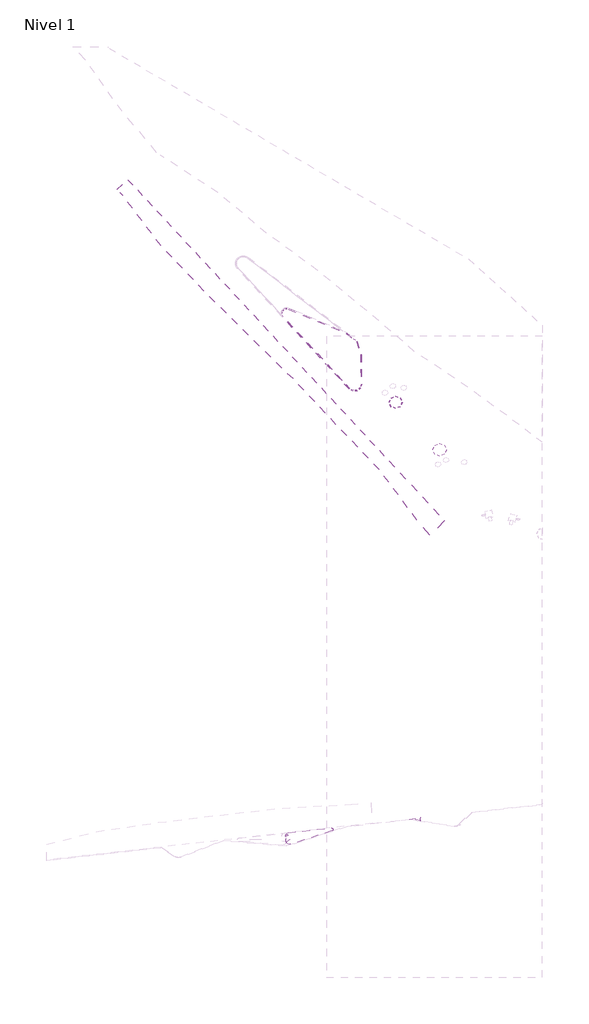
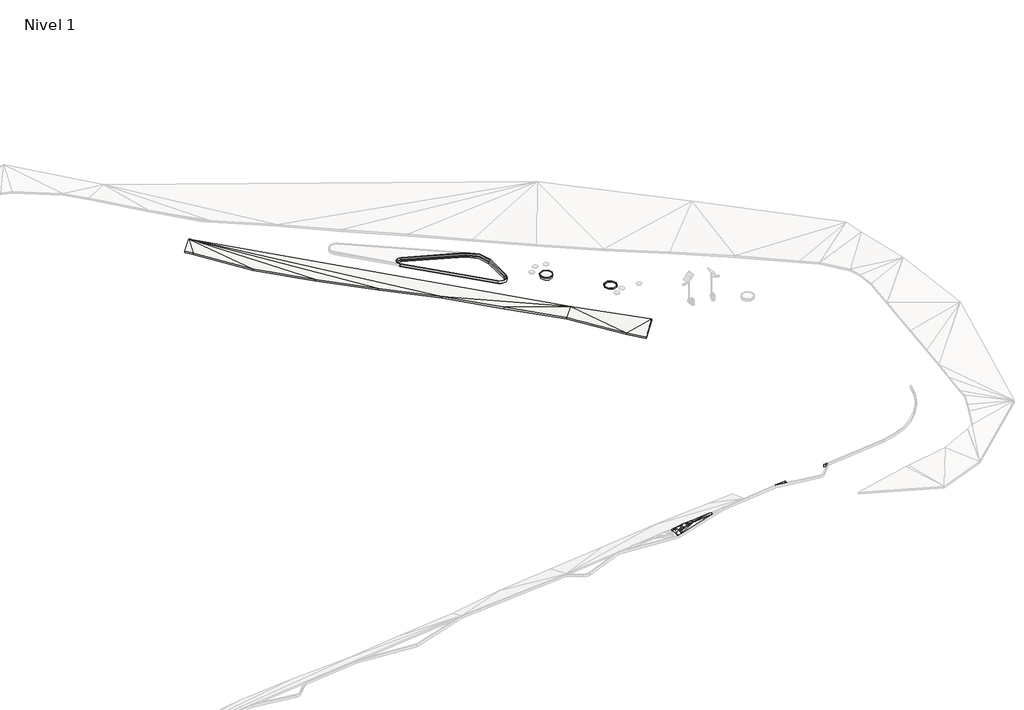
# One storey, part 18 of 45: 8 slabs.
"""IFC4 building model written with IfcOpenShell, lengths in millimetres."""

from ifc_helpers import new_model, si_unit, point, frame, frame_2d, origin, place, context, project, spatial, polyline, circle_curve, trimmed, segment, composite_curve, outline, extrude, faceted_brep, element, save
from ifc_brep_helpers import plane_surface, cylinder_surface, revolved_surface, spline_surface, advanced_brep

model = new_model("IFC4")

# Units and contexts
model_context = context("Model", 3, world=origin())
ifc_project = project(units=[si_unit("LENGTHUNIT", "METRE", prefix="MILLI")], contexts=[model_context])

# Site, building, storey
site = spatial("IfcSite", under=ifc_project)
building = spatial("IfcBuilding", under=site)
storey = spatial("IfcBuildingStorey", under=building, Name="Nivel 1", Elevation=0.0)

# Slabs
placement = place(None, origin())
element("IfcSlab", 1, ObjectType="Chilca", at=placement, inside=storey, context=model_context, shape_type="Brep", body=[
    faceted_brep([(-135458.1580022, -38329.796338, 3637.036541), (-135458.1580022, -38329.796338, 3937.036541), (-137480.3659643, -35897.258378, 3924.1153876), (-137480.3659643, -35897.258378, 3624.1153876), (-143515.2367331, -27854.1570431, 4050.5118099), (-143515.2367331, -27854.1570431, 3750.5118099), (-150420.2994676, -20619.6560519, 4005.926189), (-150420.2994676, -20619.6560519, 3705.926189), (-157275.1527189, -13338.4993723, 3984.196757), (-157275.1527189, -13338.4993723, 3684.196757), (-164447.7225091, -6352.5714608, 3817.8244602), (-164447.7225091, -6352.5714608, 3517.8244602), (-171540.5162084, 707.4860414, 3687.8456869), (-171540.5162084, 707.4860414, 3387.8456869), (-178434.8186298, 7951.9857378, 3648.1362517), (-178434.8186298, 7951.9857378, 3348.1362517), (-184530.2459619, 15938.8166634, 3971.9355563), (-184530.2459619, 15938.8166634, 3671.9355563), (-185444.134635, 17001.6570115, 3989.9380855), (-185444.134635, 17001.6570115, 3689.9380855), (-183773.7903222, 18553.7754387, 4750.0), (-183773.7903222, 18553.7754387, 4450.0), (-141977.9515757, -26425.6799309, 4750.0), (-133071.9988975, -36010.0049027, 5044.3764335), (-133071.9988975, -36010.0049027, 4744.3764335), (-141977.9515757, -26425.6799309, 4450.0)], [[[0, 1, 2, 3]], [[3, 2, 4, 5]], [[5, 4, 6, 7]], [[7, 6, 8, 9]], [[9, 8, 10, 11]], [[11, 10, 12, 13]], [[13, 12, 14, 15]], [[15, 14, 16, 17]], [[17, 16, 18, 19]], [[19, 18, 20, 21]], [[21, 20, 22, 23, 24, 25]], [[24, 23, 1, 0]], [[20, 14, 12]], [[20, 12, 10]], [[20, 18, 16]], [[20, 16, 14]], [[20, 10, 8]], [[21, 13, 15]], [[21, 11, 13]], [[21, 17, 19]], [[21, 15, 17]], [[21, 9, 11]], [[23, 2, 1]], [[24, 0, 3]], [[23, 22, 2]], [[8, 6, 22]], [[6, 4, 22]], [[4, 2, 22]], [[20, 8, 22]], [[24, 3, 25]], [[9, 25, 7]], [[7, 25, 5]], [[5, 25, 3]], [[21, 25, 9]]]),
])
element("IfcSlab", 2, ObjectType="Lippia", at=placement, inside=storey, context=model_context, shape_type="AdvancedBrep", body=[
    advanced_brep(
    [(-158431.4684222, -87344.5313884, 4450.0), (-158431.4684222, -87344.5313884, 4750.0), (-158533.7188485, -86433.6582739, 4750.0), (-158533.7188485, -86433.6582739, 4450.0), (-157756.0488095, -87730.582777, 4450.0), (-157756.0488095, -87730.582777, 4750.0), (-151069.0502959, -85595.5081098, 4450.0), (-151069.0502959, -85595.5081098, 4750.0), (-158094.1429614, -85884.4344855, 4450.0), (-158094.1429614, -85884.4344855, 4750.0), (-151141.8833056, -85107.384682, 4750.0), (-151141.8833056, -85107.384682, 4450.0), (-156587.6849821, -86966.6575345, 5250.0), (-156128.8926676, -86612.6686489, 5250.0), (-156080.5026294, -86283.1851362, 5250.0), (-156403.9739947, -86190.2690279, 5250.0), (-156647.9304873, -86316.2569371, 5250.0), (-156929.3756469, -86449.8854122, 5250.0), (-156958.8617859, -86890.275228, 5250.0), (-157808.2345317, -87045.904152, 5050.0), (-158031.3833205, -86592.6314864, 5050.0), (-156587.6849821, -86966.6575345, 4950.0), (-156958.8617859, -86890.275228, 4950.0), (-156929.3756469, -86449.8854122, 4950.0), (-156647.9304873, -86316.2569371, 4950.0), (-156403.9739947, -86190.2690279, 4950.0), (-156080.5026294, -86283.1851362, 4950.0), (-156128.8926676, -86612.6686489, 4950.0), (-157808.2345317, -87045.904152, 4750.0), (-158031.3833205, -86592.6314864, 4750.0), (-154869.6912557, -86419.9684439, 5050.0), (-154983.8053058, -85937.4045298, 5050.0), (-154869.6912557, -86419.9684439, 4750.0), (-154983.8053058, -85937.4045298, 4750.0), (-157832.9236018, -86233.543785, 5050.0), (-158036.4889593, -86381.0993787, 5050.0), (-157832.9236018, -86233.543785, 4750.0), (-158036.4889593, -86381.0993787, 4750.0), (-157542.8503011, -87290.2909567, 5050.0), (-157542.8503011, -87290.2909567, 4750.0), (-157182.0886923, -87292.4730993, 5050.0), (-157182.0886923, -87292.4730993, 4750.0), (-154714.6555208, -86128.5386271, 5050.0), (-154714.6555208, -86128.5386271, 4750.0)],
    [
        (0, 1),
        (1, 2),
        (2, 3),
        (3, 0),
        (4, 5),
        (5, 1, circle_curve(frame((-157937.8646159, -87264.8113599, 4750.0), z_axis=(0.0, 0.0, -1.0), x_axis=(0.9032685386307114, -0.42907568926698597, 0.0)), 500.0000005)),
        (0, 4, circle_curve(frame((-157937.8646159, -87264.8113599, 4450.0), z_axis=(0.0, 0.0, 1.0), x_axis=(0.9032685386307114, -0.42907568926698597, 0.0)), 500.0000005)),
        (6, 7),
        (7, 5),
        (4, 6),
        (8, 9),
        (9, 10),
        (10, 11),
        (11, 8),
        (2, 9, circle_curve(frame((-158036.4889593, -86381.0993787, 4750.0), z_axis=(0.0, 0.0, -1.0), x_axis=(0.9032685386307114, -0.42907568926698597, 0.0)), 500.0000001)),
        (8, 3, circle_curve(frame((-158036.4889593, -86381.0993787, 4450.0), z_axis=(0.0, 0.0, 1.0), x_axis=(0.9032685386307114, -0.42907568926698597, 0.0)), 500.0000001)),
        (12, 13),
        (13, 14),
        (14, 15),
        (15, 16),
        (16, 17),
        (17, 18),
        (18, 12),
        (5, 19),
        (19, 1),
        (1, 20),
        (20, 2),
        (21, 22),
        (22, 23),
        (23, 24),
        (24, 25),
        (25, 26),
        (26, 27),
        (27, 21),
        (0, 28),
        (28, 4),
        (3, 29),
        (29, 0),
        (13, 30),
        (30, 14),
        (14, 31),
        (31, 15),
        (26, 32),
        (32, 27),
        (25, 33),
        (33, 26),
        (30, 31),
        (12, 30),
        (33, 32),
        (32, 21),
        (34, 9),
        (9, 35),
        (35, 34),
        (16, 34),
        (34, 17),
        (36, 37),
        (37, 8),
        (8, 36),
        (23, 36),
        (36, 24),
        (2, 35),
        (35, 20),
        (20, 19),
        (19, 34),
        (37, 3),
        (36, 28),
        (28, 29),
        (29, 37),
        (19, 17),
        (19, 18),
        (5, 38),
        (38, 19),
        (23, 28),
        (22, 28),
        (28, 39),
        (39, 4),
        (40, 18),
        (18, 38),
        (38, 40),
        (40, 5),
        (5, 30),
        (30, 40),
        (41, 39),
        (39, 22),
        (22, 41),
        (41, 32),
        (32, 4),
        (4, 41),
        (34, 15),
        (31, 34),
        (31, 9),
        (36, 33),
        (25, 36),
        (8, 33),
        (40, 12),
        (21, 41),
        (42, 31),
        (30, 42),
        (43, 32),
        (33, 43),
        (10, 7, circle_curve(frame((-151145.1241239, -85357.3636743, 4750.0), z_axis=(0.0, 0.0, -1.0), x_axis=(0.9032685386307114, -0.42907568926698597, 0.0)), 249.999999)),
        (6, 11, circle_curve(frame((-151145.1241239, -85357.3636743, 4450.0), z_axis=(0.0, 0.0, 1.0), x_axis=(0.9032685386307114, -0.42907568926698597, 0.0)), 249.999999)),
        (31, 10),
        (42, 10),
        (42, 7),
        (30, 7),
        (11, 33),
        (11, 43),
        (6, 43),
        (6, 32),
    ],
    [
        plane_surface(frame((-158431.4684222, -87344.5313884, 4450.0), z_axis=(-0.9937582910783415, -0.11155473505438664, 0.0), x_axis=(0.0, 0.0, 1.0))),
        cylinder_surface(frame((-157937.8646159, -87264.8113599, 4750.0), z_axis=(0.0, 0.0, -1.0), x_axis=(0.9032685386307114, -0.42907568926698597, 0.0)), 500.0000005),
        plane_surface(frame((-151069.0502959, -85595.5081098, 4450.0), z_axis=(0.3041599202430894, -0.952620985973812, 0.0), x_axis=(0.0, 0.0, 1.0))),
        plane_surface(frame((-158094.1429614, -85884.4344855, 4450.0), z_axis=(-0.1110777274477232, 0.9938117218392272, 0.0), x_axis=(0.0, 0.0, 1.0))),
        cylinder_surface(frame((-158036.4889593, -86381.0993787, 4750.0), z_axis=(0.0, 0.0, -1.0), x_axis=(0.9032685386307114, -0.42907568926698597, 0.0)), 500.0000001),
        plane_surface(frame((-156533.8888848, -86529.8854178, 5250.0), z_axis=(0.0, 0.0, 1.0), x_axis=(0.7917293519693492, 0.6108720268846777, 0.0))),
        spline_surface(2, 1, [[(-158431.4684222, -87344.5313884, 4750.0), (-157808.2345317, -87045.904152, 5050.0)], [(-158393.38028036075, -87580.36236012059, 4750.0), (-157808.2345317, -87045.904152, 5050.0)], [(-158185.9812374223, -87698.90598398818, 4750.0), (-157808.2345317, -87045.904152, 5050.0)], [(-157978.58219455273, -87817.44960788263, 4750.0), (-157808.2345317, -87045.904152, 5050.0)], [(-157756.0488095, -87730.582777, 4750.0), (-157808.2345317, -87045.904152, 5050.0)]], [3, 2, 3], [2, 2], [0.0, 1.0, 2.0], [0.0, 1.0], weights=[[1.0, 1.0], [0.9023052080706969, 0.9023052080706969], [1.0, 1.0], [0.9023052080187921, 0.9023052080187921], [1.0, 1.0]]),
        plane_surface(frame((-158332.1901971, -86790.2737162, 4850.0), z_axis=(-0.5255362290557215, -0.05899427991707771, 0.8487233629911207), x_axis=(0.11155473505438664, -0.9937582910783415, 0.0))),
        plane_surface(frame((-156533.8888848, -86529.8854178, 4950.0), z_axis=(0.0, 0.0, -1.0), x_axis=(0.7917293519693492, 0.6108720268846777, 0.0))),
        spline_surface(1, 2, [[(-158431.4684222, -87344.5313884, 4450.0), (-158393.38028036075, -87580.36236012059, 4450.0), (-158185.9812374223, -87698.90598398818, 4450.0), (-157978.58219455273, -87817.44960788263, 4450.0), (-157756.0488095, -87730.582777, 4450.0)], [(-157808.2345317, -87045.904152, 4750.0), (-157808.2345317, -87045.904152, 4750.0), (-157808.2345317, -87045.904152, 4750.0), (-157808.2345317, -87045.904152, 4750.0), (-157808.2345317, -87045.904152, 4750.0)]], [2, 2], [3, 2, 3], [0.0, 1.0], [0.0, 1.0, 2.0], weights=[[1.0, 0.9023052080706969, 1.0, 0.9023052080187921, 1.0], [1.0, 0.9023052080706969, 1.0, 0.9023052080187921, 1.0]]),
        plane_surface(frame((-158332.1901971, -86790.2737162, 4550.0), z_axis=(0.5255362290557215, 0.05899427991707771, -0.8487233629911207), x_axis=(0.11155473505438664, -0.9937582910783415, 0.0))),
        plane_surface(frame((-155693.0288509, -86438.6074097, 5183.3333333), z_axis=(0.16033496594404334, -0.023547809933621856, 0.9867817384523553), x_axis=(-0.14530758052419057, -0.9893865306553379, 0.0))),
        plane_surface(frame((-155822.7606433, -86136.952898, 5183.3333333), z_axis=(0.0829243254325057, 0.2886867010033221, 0.9538257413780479), x_axis=(0.9611339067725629, -0.27608262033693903, 0.0))),
        plane_surface(frame((-155693.0288509, -86438.6074097, 4883.3333333), z_axis=(-0.16033496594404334, 0.023547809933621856, -0.9867817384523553), x_axis=(-0.14530758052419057, -0.9893865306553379, 0.0))),
        plane_surface(frame((-155822.7606433, -86136.952898, 4883.3333333), z_axis=(-0.0829243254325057, -0.2886867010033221, -0.9538257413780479), x_axis=(0.9611339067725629, -0.27608262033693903, 0.0))),
        plane_surface(frame((-155311.3330637, -86213.51937, 5116.6666667), z_axis=(0.16718890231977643, 0.039535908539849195, 0.9851318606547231), x_axis=(-0.9396128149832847, -0.2962530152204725, 0.17135317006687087))),
        plane_surface(frame((-155862.0896351, -86666.4315424, 5183.3333333), z_axis=(0.18846301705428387, -0.24426016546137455, 0.9512195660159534), x_axis=(-0.9765296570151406, -0.14944191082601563, 0.15510301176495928))),
        plane_surface(frame((-155311.3330637, -86213.51937, 4816.6666667), z_axis=(-0.16718890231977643, -0.039535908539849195, -0.9851318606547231), x_axis=(-0.9396128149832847, -0.2962530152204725, 0.17135317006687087))),
        plane_surface(frame((-155862.0896351, -86666.4315424, 4883.3333333), z_axis=(-0.18846301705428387, 0.24426016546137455, -0.9512195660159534), x_axis=(-0.9765296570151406, -0.14944191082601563, 0.15510301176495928))),
        plane_surface(frame((-157987.8518408, -86166.3592164, 4950.0), z_axis=(-0.332694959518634, 0.4589806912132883, 0.8238026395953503), x_axis=(-0.49355873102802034, 0.6596216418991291, -0.5668324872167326))),
        plane_surface(frame((-157136.7432453, -86333.2287114, 5183.3333333), z_axis=(-0.13918224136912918, 0.29314237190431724, 0.945883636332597), x_axis=(0.9033496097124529, 0.4289049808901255, 0.0))),
        plane_surface(frame((-157987.8518408, -86166.3592164, 4650.0), z_axis=(0.332694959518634, -0.4589806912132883, -0.8238026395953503), x_axis=(-0.49355873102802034, 0.6596216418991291, -0.5668324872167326))),
        plane_surface(frame((-157136.7432453, -86333.2287114, 4883.3333333), z_axis=(0.13918224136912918, -0.29314237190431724, -0.945883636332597), x_axis=(0.9033496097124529, 0.4289049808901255, 0.0))),
        revolved_surface(polyline([(-158036.4889593, -86381.0993787, 5050.0), (-158094.1429614, -85884.4344855, 4750.0)]), (-158036.4889593, -86381.0993787, 5050.0), (0.0, 0.0, -1.0)),
        plane_surface(frame((-157927.2576033, -86563.2947005, 5050.0), z_axis=(0.0, 0.0, 1.0), x_axis=(0.024129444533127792, -0.999708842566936, 0.0))),
        plane_surface(frame((-158200.5303761, -86469.129713, 4950.0), z_axis=(-0.5155939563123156, -0.012444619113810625, 0.8567426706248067), x_axis=(-0.852742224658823, -0.09013776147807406, -0.5144957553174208))),
        revolved_surface(polyline([(-158533.7188485, -86433.6582739, 4450.0), (-158036.4889593, -86381.0993787, 4750.0)]), (-158036.4889593, -86381.0993787, 4750.0), (0.0, 0.0, -1.0)),
        plane_surface(frame((-157927.2576033, -86563.2947005, 4750.0), z_axis=(0.0, 0.0, -1.0), x_axis=(0.024129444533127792, -0.999708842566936, 0.0))),
        plane_surface(frame((-158200.5303761, -86469.129713, 4650.0), z_axis=(0.5155939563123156, 0.012444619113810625, -0.8567426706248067), x_axis=(-0.852742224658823, -0.09013776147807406, -0.5144957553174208))),
        plane_surface(frame((-157523.5112601, -86576.4444497, 5116.6666667), z_axis=(-0.2176231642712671, -0.006613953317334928, 0.9760104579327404), x_axis=(0.8133290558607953, 0.5515781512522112, 0.18508751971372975))),
        plane_surface(frame((-157232.1573215, -86795.3549307, 5183.3333333), z_axis=(-0.23186619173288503, 0.015524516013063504, 0.9726238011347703), x_axis=(0.9582581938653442, 0.17557979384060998, 0.22563902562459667))),
        plane_surface(frame((-157702.3778808, -87355.5926285, 4950.0), z_axis=(-0.3654048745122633, -0.3968000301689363, 0.8420386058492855), x_axis=(0.06964238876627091, -0.9137107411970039, -0.40035311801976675))),
        plane_surface(frame((-158090.3620915, -86994.3556756, 4950.0), z_axis=(-0.3572700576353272, -0.1758861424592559, 0.9172906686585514), x_axis=(-0.4430587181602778, -0.8326623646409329, -0.33222335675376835))),
        plane_surface(frame((-157523.5112601, -86576.4444497, 4816.6666667), z_axis=(0.2176231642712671, 0.006613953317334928, -0.9760104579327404), x_axis=(0.8133290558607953, 0.5515781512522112, 0.18508751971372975))),
        plane_surface(frame((-157232.1573215, -86795.3549307, 4883.3333333), z_axis=(0.23186619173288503, -0.015524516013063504, -0.9726238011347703), x_axis=(0.9582581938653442, 0.17557979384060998, 0.22563902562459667))),
        plane_surface(frame((-157702.3778808, -87355.5926285, 4650.0), z_axis=(0.3654048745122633, 0.3968000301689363, -0.8420386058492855), x_axis=(0.06964238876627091, -0.9137107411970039, -0.40035311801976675))),
        plane_surface(frame((-158090.3620915, -86994.3556756, 4650.0), z_axis=(0.3572700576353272, 0.1758861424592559, -0.9172906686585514), x_axis=(-0.4430587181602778, -0.8326623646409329, -0.33222335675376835))),
        plane_surface(frame((-157227.9335931, -87157.6797613, 5116.6666667), z_axis=(-0.0026859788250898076, -0.4440580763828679, 0.8959939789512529), x_axis=(0.4450378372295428, 0.8018445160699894, 0.3987313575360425))),
        plane_surface(frame((-156602.6095858, -87147.6747734, 4950.0), z_axis=(0.29043852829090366, -0.7697486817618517, 0.5684473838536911), x_axis=(-0.7340565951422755, -0.5603129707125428, -0.3836799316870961))),
        plane_surface(frame((-157227.9335931, -87157.6797613, 4816.6666667), z_axis=(0.0026859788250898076, 0.4440580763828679, -0.8959939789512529), x_axis=(0.4450378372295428, 0.8018445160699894, 0.3987313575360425))),
        plane_surface(frame((-156602.6095858, -87147.6747734, 4650.0), z_axis=(-0.29043852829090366, 0.7697486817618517, -0.5684473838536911), x_axis=(-0.7340565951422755, -0.5603129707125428, -0.3836799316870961))),
        plane_surface(frame((-157436.6488729, -87075.4901122, 5116.6666667), z_axis=(-0.18862447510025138, -0.20483086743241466, 0.9604504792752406), x_axis=(0.7939324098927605, 0.5438213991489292, 0.2719000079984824))),
        plane_surface(frame((-157436.6488729, -87075.4901122, 4816.6666667), z_axis=(0.18862447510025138, 0.20483086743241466, -0.9604504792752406), x_axis=(0.7939324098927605, 0.5438213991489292, 0.2719000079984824))),
        plane_surface(frame((-156406.9009674, -86120.4057809, 5116.6666667), z_axis=(-0.0915945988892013, 0.8812200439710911, 0.4637474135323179), x_axis=(0.9899016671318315, 0.029978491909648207, 0.1385495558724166))),
        plane_surface(frame((-156961.6093612, -86246.6899167, 5183.3333333), z_axis=(-0.1414419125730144, 0.2738808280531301, 0.9513061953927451), x_axis=(0.9837270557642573, -0.06866467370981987, 0.1660308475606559))),
        plane_surface(frame((-156970.290623, -86018.4609334, 4950.0), z_axis=(-0.06466269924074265, 0.6221116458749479, 0.780253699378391), x_axis=(-0.9952376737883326, 0.016949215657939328, -0.09599321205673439))),
        plane_surface(frame((-156406.9009674, -86120.4057809, 4816.6666667), z_axis=(0.0915945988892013, -0.8812200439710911, -0.4637474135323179), x_axis=(0.9899016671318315, 0.029978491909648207, 0.1385495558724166))),
        plane_surface(frame((-156961.6093612, -86246.6899167, 4883.3333333), z_axis=(0.1414419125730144, -0.2738808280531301, -0.9513061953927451), x_axis=(0.9837270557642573, -0.06866467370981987, 0.1660308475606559))),
        plane_surface(frame((-156970.290623, -86018.4609334, 4650.0), z_axis=(0.06466269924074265, -0.6221116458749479, -0.780253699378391), x_axis=(-0.9952376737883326, 0.016949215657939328, -0.09599321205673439))),
        plane_surface(frame((-156909.5451534, -87049.8019539, 5183.3333333), z_axis=(-0.08357370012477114, -0.4061230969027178, 0.9099887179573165), x_axis=(-0.9794760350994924, 0.20156065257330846, 0.0))),
        plane_surface(frame((-156213.1549767, -86893.0330259, 5116.6666667), z_axis=(0.3188772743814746, -0.8451198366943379, 0.42905680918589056), x_axis=(-0.9471071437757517, -0.3013824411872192, 0.11025734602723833))),
        plane_surface(frame((-156909.5451534, -87049.8019539, 4883.3333333), z_axis=(0.08357370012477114, 0.4061230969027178, -0.9099887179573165), x_axis=(-0.9794760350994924, 0.20156065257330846, 0.0))),
        plane_surface(frame((-156213.1549767, -86893.0330259, 4816.6666667), z_axis=(-0.3188772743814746, 0.8451198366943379, -0.42905680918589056), x_axis=(-0.9471071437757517, -0.3013824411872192, 0.11025734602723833))),
        plane_surface(frame((-154856.0506941, -86161.9705336, 5050.0), z_axis=(0.0, 0.0, 1.0000000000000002), x_axis=(-0.8153290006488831, 0.5789979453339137, 0.0))),
        plane_surface(frame((-157493.662601, -87437.7822776, 4950.0), z_axis=(-0.003399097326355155, -0.5619540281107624, 0.8271614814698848), x_axis=(-0.37151929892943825, -0.7672516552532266, -0.522779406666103))),
        plane_surface(frame((-154856.0506941, -86161.9705336, 4750.0), z_axis=(0.0, 0.0, -1.0000000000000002), x_axis=(-0.8153290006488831, 0.5789979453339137, 0.0))),
        plane_surface(frame((-157493.662601, -87437.7822776, 4650.0), z_axis=(0.003399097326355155, 0.5619540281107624, -0.8271614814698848), x_axis=(-0.37151929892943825, -0.7672516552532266, -0.522779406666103))),
        cylinder_surface(frame((-151145.1241239, -85357.3636743, 4750.0), z_axis=(0.0, 0.0, -1.0), x_axis=(0.9032685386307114, -0.42907568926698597, 0.0)), 249.999999),
        plane_surface(frame((-154739.9438576, -85643.0745658, 4850.0), z_axis=(-0.06684631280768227, 0.5980735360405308, 0.7986486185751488), x_axis=(-0.9938117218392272, -0.11107772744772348, 0.0))),
        plane_surface(frame((-153613.4480441, -85724.442613, 4950.0), z_axis=(0.05955392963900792, 0.08386220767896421, 0.9946961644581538), x_axis=(-0.9746144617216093, -0.21055850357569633, 0.07610366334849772))),
        spline_surface(2, 1, [[(-151069.0502959, -85595.5081098, 4750.0), (-154714.6555208, -86128.5386271, 5050.0)], [(-150866.478351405, -85530.79770314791, 4750.0), (-154714.6555208, -86128.5386271, 5050.0)], [(-150897.86146303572, -85320.46955541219, 4750.0), (-154714.6555208, -86128.5386271, 5050.0)], [(-150929.24457471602, -85110.14140767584, 4750.0), (-154714.6555208, -86128.5386271, 5050.0)], [(-151141.8833056, -85107.384682, 4750.0), (-154714.6555208, -86128.5386271, 5050.0)]], [3, 2, 3], [2, 2], [0.0, 1.0, 2.0], [0.0, 1.0], weights=[[1.0, 1.0], [0.7617038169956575, 0.7617038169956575], [1.0, 1.0], [0.761703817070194, 0.761703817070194], [1.0, 1.0]]),
        plane_surface(frame((-153551.1323575, -86048.0050603, 4950.0), z_axis=(0.08877916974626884, -0.04722901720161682, 0.9949309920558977), x_axis=(-0.46965990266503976, -0.8828474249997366, 0.0))),
        plane_surface(frame((-154564.9301204, -86582.0197769, 4850.0), z_axis=(0.1913718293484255, -0.5993716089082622, 0.7772583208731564), x_axis=(-0.906478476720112, -0.4116065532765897, -0.09421685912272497))),
        plane_surface(frame((-154739.9438576, -85643.0745658, 4550.0), z_axis=(0.06684631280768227, -0.5980735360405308, -0.7986486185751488), x_axis=(-0.9938117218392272, -0.11107772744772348, 0.0))),
        plane_surface(frame((-153613.4480441, -85724.442613, 4650.0), z_axis=(-0.05955392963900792, -0.08386220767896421, -0.9946961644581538), x_axis=(-0.9746144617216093, -0.21055850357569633, 0.07610366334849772))),
        spline_surface(1, 2, [[(-151069.0502959, -85595.5081098, 4450.0), (-150866.478351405, -85530.79770314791, 4450.0), (-150897.86146303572, -85320.46955541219, 4450.0), (-150929.24457471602, -85110.14140767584, 4450.0), (-151141.8833056, -85107.384682, 4450.0)], [(-154714.6555208, -86128.5386271, 4750.0), (-154714.6555208, -86128.5386271, 4750.0), (-154714.6555208, -86128.5386271, 4750.0), (-154714.6555208, -86128.5386271, 4750.0), (-154714.6555208, -86128.5386271, 4750.0)]], [2, 2], [3, 2, 3], [0.0, 1.0], [0.0, 1.0, 2.0], weights=[[1.0, 0.7617038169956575, 1.0, 0.761703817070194, 1.0], [1.0, 0.7617038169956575, 1.0, 0.761703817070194, 1.0]]),
        plane_surface(frame((-153551.1323575, -86048.0050603, 4650.0), z_axis=(-0.08877916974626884, 0.04722901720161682, -0.9949309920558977), x_axis=(-0.46965990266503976, -0.8828474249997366, 0.0))),
        plane_surface(frame((-154564.9301204, -86582.0197769, 4550.0), z_axis=(-0.1913718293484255, 0.5993716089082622, -0.7772583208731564), x_axis=(-0.906478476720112, -0.4116065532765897, -0.09421685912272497))),
    ],
    [
        (0, [[1, 2, 3, 4]]),
        (1, [[5, 6, -1, 7]]),
        (2, [[8, 9, -5, 10]]),
        (3, [[11, 12, 13, 14]]),
        (4, [[-3, 15, -11, 16]]),
        (5, [[17, 18, 19, 20, 21, 22, 23]]),
        (6, [[-6, 24, 25]]),
        (7, [[-2, 26, 27]]),
        (8, [[28, 29, 30, 31, 32, 33, 34]]),
        (9, [[35, 36, -7]]),
        (10, [[37, 38, -4]]),
        (11, [[-18, 39, 40]]),
        (12, [[-19, 41, 42]]),
        (13, [[43, 44, -33]]),
        (14, [[45, 46, -32]]),
        (15, [[-41, -40, 47]]),
        (16, [[-39, -17, 48]]),
        (17, [[49, -43, -46]]),
        (18, [[50, -34, -44]]),
        (19, [[51, 52, 53]]),
        (20, [[-21, 54, 55]]),
        (21, [[56, 57, 58]]),
        (22, [[59, 60, -30]]),
        (23, [[-52, -15, 61]]),
        (24, [[62, 63, 64, -53]]),
        (25, [[-61, -27, -62]]),
        (26, [[65, -16, -57]]),
        (27, [[-56, 66, 67, 68]]),
        (28, [[-68, -37, -65]]),
        (29, [[69, -55, -64]]),
        (30, [[70, -22, -69]]),
        (31, [[-24, 71, 72]]),
        (32, [[-26, -25, -63]]),
        (33, [[-66, -59, 73]]),
        (34, [[-73, -29, 74]]),
        (35, [[75, 76, -36]]),
        (36, [[-67, -35, -38]]),
        (37, [[77, 78, 79]]),
        (38, [[80, 81, 82]]),
        (39, [[83, 84, 85]]),
        (40, [[86, 87, 88]]),
        (41, [[-78, -70, -72]]),
        (42, [[-75, -74, -84]]),
        (43, [[89, -42, 90]]),
        (44, [[-54, -20, -89]]),
        (45, [[91, -51, -90]]),
        (46, [[92, -45, 93]]),
        (47, [[-93, -31, -60]]),
        (48, [[-92, -58, 94]]),
        (49, [[-23, -77, 95]]),
        (50, [[-48, -95, -82]]),
        (51, [[96, -85, -28]]),
        (52, [[-86, -96, -50]]),
        (53, [[97, -47, 98]]),
        (54, [[-71, -80, -79]]),
        (55, [[99, -49, 100]]),
        (56, [[-83, -88, -76]]),
        (57, [[-13, 101, -8, 102]]),
        (58, [[-12, -91, 103]]),
        (59, [[-103, -97, 104]]),
        (60, [[-104, 105, -101]]),
        (61, [[-98, 106, -105]]),
        (62, [[-81, -9, -106]]),
        (63, [[107, -94, -14]]),
        (64, [[108, -100, -107]]),
        (65, [[-102, 109, -108]]),
        (66, [[-109, 110, -99]]),
        (67, [[-110, -10, -87]]),
    ],
),
])
element("IfcSlab", 3, ObjectType="Bordillo", at=placement, inside=storey, context=model_context, shape_type="AdvancedBrep", body=[
    advanced_brep(
    [(-146399.205906, -9444.2398774, 4350.0), (-146323.9106366, -14175.982497, 4350.0), (-148316.204813, -14977.0923102, 4350.0), (-159014.2888373, -3464.1281734, 4350.0), (-158005.0546366, -2022.3782227, 4350.0), (-148782.7979584, -5912.9642392, 4350.0), (-148206.3213675, -14874.9863437, 4350.0), (-146473.8916489, -14178.3691147, 4350.0), (-146549.1869183, -9446.6264951, 4350.0), (-148841.1023495, -6051.1691535, 4350.0), (-158063.3590316, -2160.5831341, 4350.0), (-158904.2982326, -3362.1375248, 4350.0), (-146399.205906, -9444.2398774, 4750.0), (-148782.7979544, -5912.9642422, 4750.0), (-158005.0546366, -2022.3782227, 4750.0), (-159014.1816779, -3464.2434916, 4750.0), (-148316.204813, -14977.0923102, 4750.0), (-146323.9106366, -14175.982497, 4750.0), (-148206.3213675, -14874.9863437, 4750.0), (-158904.4053918, -3362.0222067, 4750.0), (-158063.3590316, -2160.5831341, 4750.0), (-148841.1023534, -6051.1691506, 4750.0), (-146549.1869183, -9446.6264951, 4750.0), (-146473.8916489, -14178.3691147, 4750.0)],
    [
        (0, 1),
        (1, 2, circle_curve(frame((-147473.7650645, -14194.2798994, 4350.0), z_axis=(0.0, 0.0, -1.0), x_axis=(1.0, 0.0, 0.0)), 1150.0000002)),
        (2, 3),
        (3, 4, circle_curve(frame((-158354.8810062, -2851.607691, 4350.0), z_axis=(0.0, 0.0, -1.0), x_axis=(1.0, 0.0, 0.0)), 899.9999999)),
        (4, 5),
        (5, 0, circle_curve(frame((-150298.7122278, -9506.2919378, 4350.0), z_axis=(0.0, 0.0, -1.0), x_axis=(1.0, 0.0, 0.0)), 3900.0000015)),
        (6, 7, circle_curve(frame((-147473.7650645, -14194.2798994, 4350.0), z_axis=(0.0, 0.0, 1.0), x_axis=(1.0, 0.0, 0.0)), 1000.0000002)),
        (7, 8),
        (8, 9, circle_curve(frame((-150298.7122278, -9506.2919378, 4350.0), z_axis=(0.0, 0.0, 1.0), x_axis=(1.0, 0.0, 0.0)), 3750.0000015)),
        (9, 10),
        (10, 11, circle_curve(frame((-158354.8810062, -2851.607691, 4350.0), z_axis=(0.0, 0.0, 1.0), x_axis=(1.0, 0.0, 0.0)), 749.9999999)),
        (11, 6),
        (12, 13, circle_curve(frame((-150298.7122278, -9506.2919378, 4750.0), z_axis=(0.0, 0.0, 1.0), x_axis=(1.0, 0.0, 0.0)), 3900.0000015)),
        (13, 14),
        (14, 15, circle_curve(frame((-158354.8810062, -2851.607691, 4750.0), z_axis=(0.0, 0.0, 1.0), x_axis=(1.0, 0.0, 0.0)), 899.9999999)),
        (15, 16),
        (16, 17, circle_curve(frame((-147473.7650645, -14194.2798994, 4750.0), z_axis=(0.0, 0.0, 1.0), x_axis=(1.0, 0.0, 0.0)), 1150.0000002)),
        (17, 12),
        (18, 19),
        (19, 20, circle_curve(frame((-158354.8810062, -2851.607691, 4750.0), z_axis=(0.0, 0.0, -1.0), x_axis=(1.0, 0.0, 0.0)), 749.9999999)),
        (20, 21),
        (21, 22, circle_curve(frame((-150298.7122278, -9506.2919378, 4750.0), z_axis=(0.0, 0.0, -1.0), x_axis=(1.0, 0.0, 0.0)), 3750.0000015)),
        (22, 23),
        (23, 18, circle_curve(frame((-147473.7650645, -14194.2798994, 4750.0), z_axis=(0.0, 0.0, -1.0), x_axis=(1.0, 0.0, 0.0)), 1000.0000002)),
        (0, 12),
        (17, 1),
        (16, 2),
        (15, 3),
        (14, 4),
        (13, 5),
        (6, 18),
        (23, 7),
        (22, 8),
        (21, 9),
        (20, 10),
        (19, 11),
    ],
    [
        plane_surface(frame((-146399.205906, -9444.2398774, 4350.0), z_axis=(0.0, 0.0, -1.0000000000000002), x_axis=(0.015910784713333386, -0.9998734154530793, 0.0))),
        plane_surface(frame((-146399.205906, -9444.2398774, 4750.0), z_axis=(0.0, 0.0, 1.0000000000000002), x_axis=(-0.015910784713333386, 0.9998734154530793, 0.0))),
        plane_surface(frame((-146399.205906, -9444.2398774, 4350.0), z_axis=(0.9998734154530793, 0.015910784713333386, 0.0), x_axis=(0.0, 0.0, 1.0))),
        cylinder_surface(frame((-147473.7650645, -14194.2798994, 4750.0), z_axis=(0.0, 0.0, -1.0), x_axis=(1.0, 0.0, 0.0)), 1150.0000002),
        plane_surface(frame((-148316.204813, -14977.0923102, 4350.0), z_axis=(-0.7325563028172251, -0.6807064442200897, 0.0), x_axis=(0.0, 0.0, 1.0))),
        cylinder_surface(frame((-158354.8810062, -2851.607691, 4750.0), z_axis=(0.0, 0.0, -1.0), x_axis=(1.0, 0.0, 0.0)), 899.9999999),
        plane_surface(frame((-158005.0546366, -2022.3782227, 4350.0), z_axis=(0.38869596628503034, 0.9213660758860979, 0.0), x_axis=(0.0, 0.0, 1.0))),
        cylinder_surface(frame((-150298.7122278, -9506.2919378, 4750.0), z_axis=(0.0, 0.0, -1.0), x_axis=(1.0, 0.0, 0.0)), 3900.0000015),
        revolved_surface(polyline([(-146473.7650643, -14194.2798994, 4750.0), (-146473.7650643, -14194.2798994, 4350.0)]), (-147473.7650645, -14194.2798994, 0.0), (0.0, 0.0, 1.0)),
        plane_surface(frame((-146473.8916489, -14178.3691147, 4350.0), z_axis=(-0.9998734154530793, -0.01591078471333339, 0.0), x_axis=(0.0, 0.0, 1.0))),
        revolved_surface(polyline([(-146548.71222629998, -9506.2919378, 4750.0), (-146548.71222629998, -9506.2919378, 4350.0)]), (-150298.7122278, -9506.2919378, 0.0), (0.0, 0.0, 1.0)),
        plane_surface(frame((-148841.1023534, -6051.1691506, 4350.0), z_axis=(-0.3886959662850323, -0.921366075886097, 0.0), x_axis=(0.0, 0.0, 1.0))),
        revolved_surface(polyline([(-157604.8810063, -2851.607691, 4750.0), (-157604.8810063, -2851.607691, 4350.0)]), (-158354.8810062, -2851.607691, 0.0), (0.0, 0.0, 1.0)),
        plane_surface(frame((-158904.4053918, -3362.0222067, 4350.0), z_axis=(0.7325563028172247, 0.6807064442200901, 0.0), x_axis=(0.0, 0.0, 1.0))),
    ],
    [
        (0, [[1, 2, 3, 4, 5, 6], [7, 8, 9, 10, 11, 12]]),
        (1, [[13, 14, 15, 16, 17, 18], [19, 20, 21, 22, 23, 24]]),
        (2, [[-1, 25, -18, 26]]),
        (3, [[-2, -26, -17, 27]]),
        (4, [[-3, -27, -16, 28]]),
        (5, [[-4, -28, -15, 29]]),
        (6, [[-5, -29, -14, 30]]),
        (7, [[-6, -30, -13, -25]]),
        (8, [[-7, 31, -24, 32]]),
        (9, [[-8, -32, -23, 33]]),
        (10, [[-9, -33, -22, 34]]),
        (11, [[-10, -34, -21, 35]]),
        (12, [[-11, -35, -20, 36]]),
        (13, [[-12, -36, -19, -31]]),
    ],
),
])
element("IfcSlab", 4, ObjectType="Alcorque", at=placement, inside=storey, context=model_context, shape_type="SweptSolid", body=[
    extrude(outline(composite_curve([segment(trimmed(circle_curve(frame_2d((-133866.9542375, -24650.8173807)), 1050.0), [point((-134916.9542375, -24650.8173807))], [point((-132816.9542375, -24650.8173807))], False, "CARTESIAN"), True, "CONTINUOUS"), segment(trimmed(circle_curve(frame_2d((-133866.9542375, -24650.8173807)), 1050.0), [point((-132816.9542375, -24650.8173807))], [point((-134916.9542375, -24650.8173807))], False, "CARTESIAN"), True, "CONTINUOUS")], self_intersect=False), holes=[composite_curve([segment(trimmed(circle_curve(frame_2d((-133866.9542375, -24650.8173807)), 950.0), [point((-132916.9542375, -24650.8173807))], [point((-134816.9542375, -24650.8173807))], True, "CARTESIAN"), True, "CONTINUOUS"), segment(trimmed(circle_curve(frame_2d((-133866.9542375, -24650.8173807)), 950.0), [point((-134816.9542375, -24650.8173807))], [point((-132916.9542375, -24650.8173807))], True, "CARTESIAN"), True, "CONTINUOUS")], self_intersect=False)]), frame((0.0, 0.0, 4748.5826489), z_axis=(0.0, 0.0, 1.0), x_axis=(1.0, 0.0, 0.0)), (0.0, 0.0, 1.0), 150.0),
])
element("IfcSlab", 5, ObjectType="Alcorque", at=placement, inside=storey, context=model_context, shape_type="SweptSolid", body=[
    extrude(outline(composite_curve([segment(trimmed(circle_curve(frame_2d((-140904.1423328, -17077.6020246)), 1050.0), [point((-139854.1423328, -17077.6020246))], [point((-141954.1423328, -17077.6020246))], False, "CARTESIAN"), True, "CONTINUOUS"), segment(trimmed(circle_curve(frame_2d((-140904.1423328, -17077.6020246)), 1050.0), [point((-141954.1423328, -17077.6020246))], [point((-139854.1423328, -17077.6020246))], False, "CARTESIAN"), True, "CONTINUOUS")], self_intersect=False), holes=[composite_curve([segment(trimmed(circle_curve(frame_2d((-140904.1423328, -17077.6020246)), 950.0), [point((-141854.1423328, -17077.6020246))], [point((-139954.1423328, -17077.6020246))], True, "CARTESIAN"), True, "CONTINUOUS"), segment(trimmed(circle_curve(frame_2d((-140904.1423328, -17077.6020246)), 950.0), [point((-139954.1423328, -17077.6020246))], [point((-141854.1423328, -17077.6020246))], True, "CARTESIAN"), True, "CONTINUOUS")], self_intersect=False)]), frame((0.0, 0.0, 4650.0), z_axis=(0.0, 0.0, 1.0), x_axis=(1.0, 0.0, 0.0)), (0.0, 0.0, 1.0), 150.0),
])
element("IfcSlab", 6, ObjectType="Tierra de Chacra (50cm)", at=placement, inside=storey, context=model_context, shape_type="SweptSolid", body=[
    extrude(outline(composite_curve([segment(trimmed(circle_curve(frame_2d((-140904.1423328, -17077.6020246)), 950.0), [point((-139954.1423328, -17077.6020246))], [point((-141854.1423328, -17077.6020246))], False, "CARTESIAN"), True, "CONTINUOUS"), segment(trimmed(circle_curve(frame_2d((-140904.1423328, -17077.6020246)), 950.0), [point((-141854.1423328, -17077.6020246))], [point((-139954.1423328, -17077.6020246))], False, "CARTESIAN"), True, "CONTINUOUS")], self_intersect=False)), frame((0.0, 0.0, 4250.0), z_axis=(0.0, 0.0, 1.0), x_axis=(1.0, 0.0, 0.0)), (0.0, 0.0, 1.0), 500.0),
])
element("IfcSlab", 7, ObjectType="Bordillo", at=placement, inside=storey, context=model_context, shape_type="SweptSolid", body=[
    extrude(outline(composite_curve([segment(polyline([(-138710.5297071, -83696.4460083), (-136842.8800612, -83485.5734597)]), True, "CONTINUOUS"), segment(trimmed(circle_curve(frame_2d((-136793.515483, -83730.6512831)), 250.0000022), [point((-136842.8800612, -83485.5734597))], [point((-136839.2917959, -83976.4246142))], True, "CARTESIAN"), True, "CONTINUOUS"), segment(polyline([(-136839.2917959, -83976.4246142), (-138710.5297071, -83696.4460083)]), True, "CONTINUOUS")], self_intersect=False)), frame((0.0, 0.0, 4350.0), z_axis=(0.0, 0.0, 1.0), x_axis=(1.0, 0.0, 0.0)), (0.0, 0.0, 1.0), 400.0),
    extrude(outline(composite_curve([segment(polyline([(-128777.940236, -82574.9773961), (-129276.8057834, -83077.9551406)]), True, "CONTINUOUS"), segment(trimmed(circle_curve(frame_2d((-129455.2774757, -82902.8898525)), 250.0000001), [point((-129276.8057834, -83077.9551406))], [point((-129474.6523842, -82653.6417573))], True, "CARTESIAN"), True, "CONTINUOUS"), segment(polyline([(-129474.6523842, -82653.6417573), (-128777.940236, -82574.9773961)]), True, "CONTINUOUS")], self_intersect=False)), frame((0.0, 0.0, 4350.0), z_axis=(0.0, 0.0, 1.0), x_axis=(1.0, 0.0, 0.0)), (0.0, 0.0, 1.0), 400.0),
])
element("IfcSlab", 8, ObjectType="Tierra de Chacra (25cm)", at=placement, inside=storey, context=model_context, shape_type="SweptSolid", body=[
    extrude(outline(composite_curve([segment(trimmed(circle_curve(frame_2d((-147473.7650645, -14194.2798994)), 1000.0000002), [point((-146473.8916489, -14178.3691147))], [point((-148206.3213675, -14874.9863437))], False, "CARTESIAN"), True, "CONTINUOUS"), segment(polyline([(-148206.3213675, -14874.9863437), (-158904.4053871, -3362.0222024)]), True, "CONTINUOUS"), segment(trimmed(circle_curve(frame_2d((-158354.8810107, -2851.6076956)), 750.0000061), [point((-158904.4053871, -3362.0222024))], [point((-158063.3590318, -2160.5831338))], False, "CARTESIAN"), True, "CONTINUOUS"), segment(polyline([(-158063.3590318, -2160.5831338), (-148841.1023536, -6051.1691511)]), True, "CONTINUOUS"), segment(trimmed(circle_curve(frame_2d((-150298.7122278, -9506.2919373)), 3750.0000018), [point((-148841.1023536, -6051.1691511))], [point((-146549.186918, -9446.6264951))], False, "CARTESIAN"), True, "CONTINUOUS"), segment(polyline([(-146549.186918, -9446.6264951), (-146473.8916489, -14178.3691147)]), True, "CONTINUOUS")], self_intersect=False), holes=[composite_curve([segment(polyline([(-158721.2466478, -3191.8667528), (-148023.182292, -14704.8097324)]), True, "CONTINUOUS"), segment(trimmed(circle_curve(frame_2d((-147473.7650645, -14194.2798994)), 750.0000002), [point((-148023.182292, -14704.8097324))], [point((-146723.8600028, -14182.3468109))], True, "CARTESIAN"), True, "CONTINUOUS"), segment(polyline([(-146723.8600028, -14182.3468109), (-146799.1552719, -9450.604191)]), True, "CONTINUOUS"), segment(trimmed(circle_curve(frame_2d((-150298.7122278, -9506.2919373)), 3500.0000018), [point((-146799.1552719, -9450.604191))], [point((-148938.2763449, -6281.5106701))], True, "CARTESIAN"), True, "CONTINUOUS"), segment(polyline([(-148938.2763449, -6281.5106701), (-158160.5330252, -2390.924652)]), True, "CONTINUOUS"), segment(trimmed(circle_curve(frame_2d((-158354.8810107, -2851.6076956)), 500.0000061), [point((-158160.5330252, -2390.924652))], [point((-158721.2466478, -3191.8667528))], True, "CARTESIAN"), True, "CONTINUOUS")], self_intersect=False)]), frame((0.0, 0.0, 4200.0), z_axis=(0.0, 0.0, 1.0), x_axis=(1.0, 0.0, 0.0)), (0.0, 0.0, 1.0), 250.0),
])

save(model, "model.ifc")
